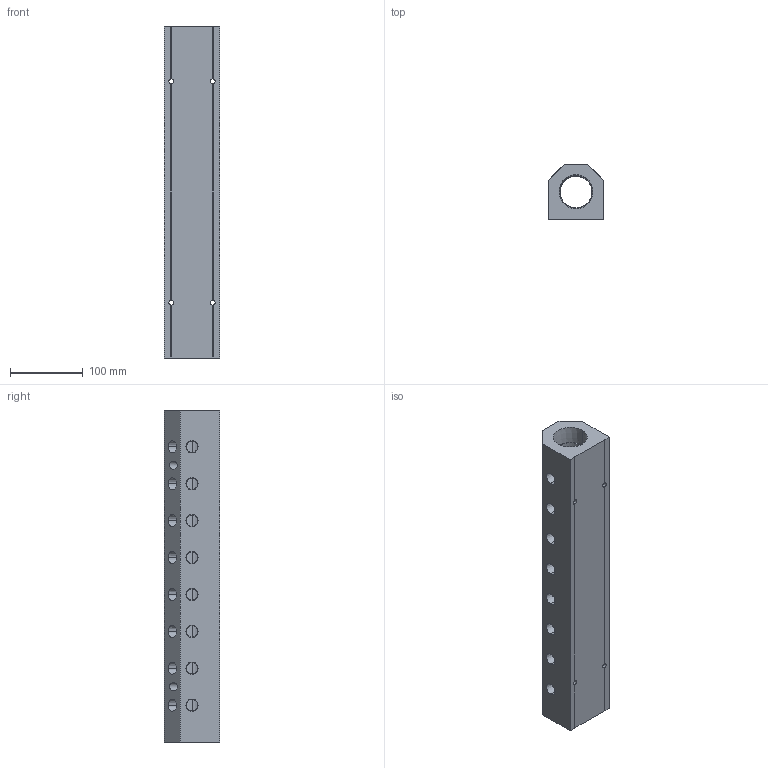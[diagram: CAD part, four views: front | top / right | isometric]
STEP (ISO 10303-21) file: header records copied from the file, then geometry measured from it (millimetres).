
FILE_DESCRIPTION (( 'STEP AP214' ), '1' );
FILE_NAME ('ALM8ABC-N6N24-457R.step', '2022-02-07T07:58:13', ( '' ), ( '' ), 'SwSTEP 2.0', 'SolidWorks 2020', '' );
FILE_SCHEMA (( 'AUTOMOTIVE_DESIGN' ));
Length unit declared in the file: millimetre
Products named in the file (1): ALM8ABC-N6N24-457R
Bounding box: 76.2 x 76.2 x 457 mm (x, y, z)
Volume: 1622270.9 mm3; surface area: 214442.5 mm2
Topology: 1 solids, 1 shells, 361 faces, 969 edges, 638 vertices
Faces by surface type: plane 225, bspline 66, cone 52, cylinder 18
Entity records: 21027 total; most frequent: CARTESIAN_POINT 8947, ORIENTED_EDGE 1938, DIRECTION 1449, EDGE_CURVE 969, VECTOR 689, LINE 689, VERTEX_POINT 638, EDGE_LOOP 447
